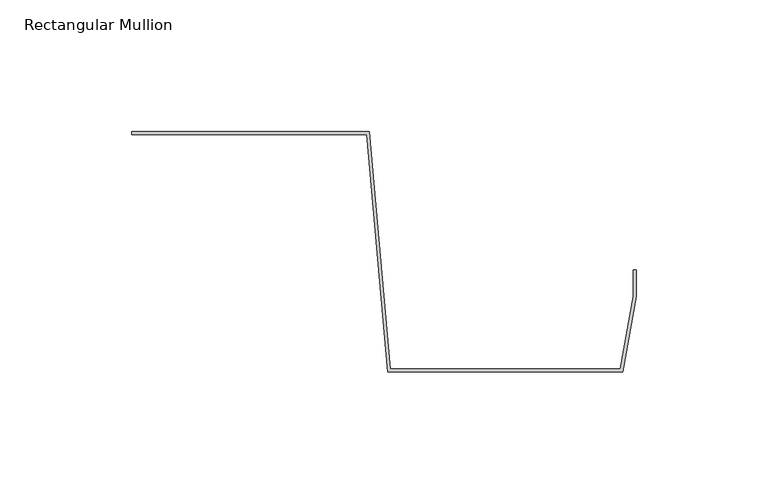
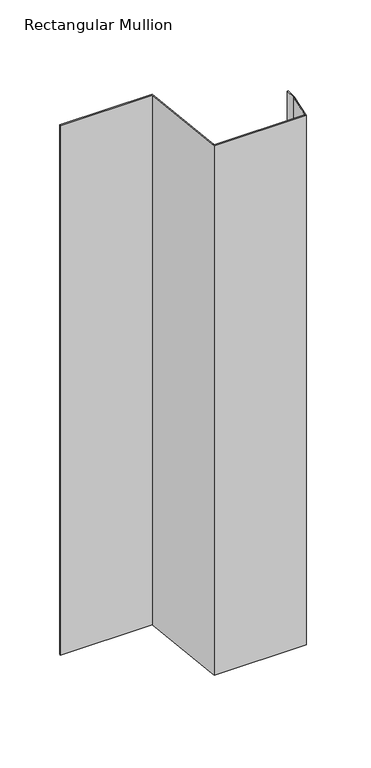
"""IFC4 building model written with IfcOpenShell, lengths in millimetres: member geometry, Rectangular Mullion : CD_NINELINE_Box End."""

from ifc_helpers import new_model, si_unit, frame, origin, place, context, project, spatial, polyline, outline, extrude, source, transform, mapped, element, save


def rectangular_mullion_f7867c98(model_context):
    return source(origin(), model_context, "Body", "SweptSolid", [
        extrude(outline(polyline([(-191.0780283, 0.0), (-101.1693243, 0.0), (-93.1693243, -90.0), (-5.9127704, -90.0), (-1.006169, -62.3975992), (-1.006169, -52.3975992), (0.0, -52.3975992), (0.0, -62.4510836), (-5.0812033, -91.0357186), (-94.0812033, -91.0357186), (-102.0843783, -1.0), (-191.0780283, -1.0), (-191.0780283, 0.0)])), frame((0.0, 0.0, -542.0), z_axis=(0.0, 0.0, 1.0), x_axis=(1.0, 0.0, 0.0)), (0.0, 0.0, 1.0), 542.0),
    ])


if __name__ == "__main__":
    model = new_model("IFC4")
    model_context = context("Model", 3, world=origin())
    ifc_project = project(units=[si_unit("LENGTHUNIT", "METRE", prefix="MILLI")], contexts=[model_context])
    site = spatial("IfcSite", under=ifc_project)
    building = spatial("IfcBuilding", under=site)
    placement = place(None, origin())
    rectangular_mullion_shape = rectangular_mullion_f7867c98(model_context)
    element("IfcMember", 1, ObjectType="Rectangular Mullion : CD_NINELINE_Box End", at=placement, inside=building, context=model_context, shape_type="MappedRepresentation", body=[
        mapped(rectangular_mullion_shape, transform((0.0, 0.0, 0.0), x_axis=(1.0, 0.0, 0.0), y_axis=(0.0, 1.0, 0.0), z_axis=(0.0, 0.0, 1.0))),
    ])
    save(model, "model.ifc")
